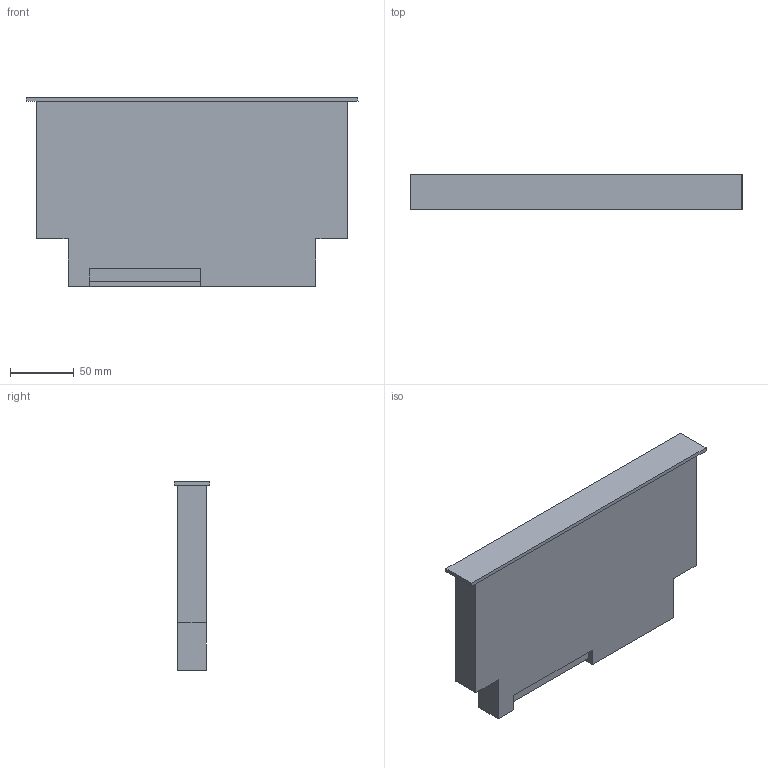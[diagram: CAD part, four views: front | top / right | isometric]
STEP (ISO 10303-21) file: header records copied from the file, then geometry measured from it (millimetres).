
FILE_DESCRIPTION (( 'STEP AP214' ), '1' );
FILE_NAME ('01-000 - MODULE 1T2R (GABARITS).STEP', '2026-04-18T09:19:06', ( '' ), ( '' ), 'SwSTEP 2.0', 'SolidWorks 2021', '' );
FILE_SCHEMA (( 'AUTOMOTIVE_DESIGN' ));
Length unit declared in the file: millimetre
Products named in the file (4): 01-000 - MODULE 1T2R (GABARITS); 01-001 - VOLUME CONCEPTION CIRCUITS; 01-002 - VOLUMES INTERDITS; 01-003 - VOLUME BOITIER (PRINCIPE)
Assembly tree (3 placements, depth 2):
  01-000 - MODULE 1T2R (GABARITS)
    01-003 - VOLUME BOITIER (PRINCIPE)
    01-002 - VOLUMES INTERDITS
    01-001 - VOLUME CONCEPTION CIRCUITS
Bounding box: 260 x 28 x 148 mm (x, y, z)
Volume: 752338 mm3; surface area: 229668 mm2
Topology: 3 solids, 3 shells, 59 faces, 162 edges, 108 vertices
Faces by surface type: plane 59
Entity records: 1994 total; most frequent: CARTESIAN_POINT 335, ORIENTED_EDGE 324, DIRECTION 292, EDGE_CURVE 162, LINE 162, VECTOR 162, VERTEX_POINT 108, AXIS2_PLACEMENT_3D 65
